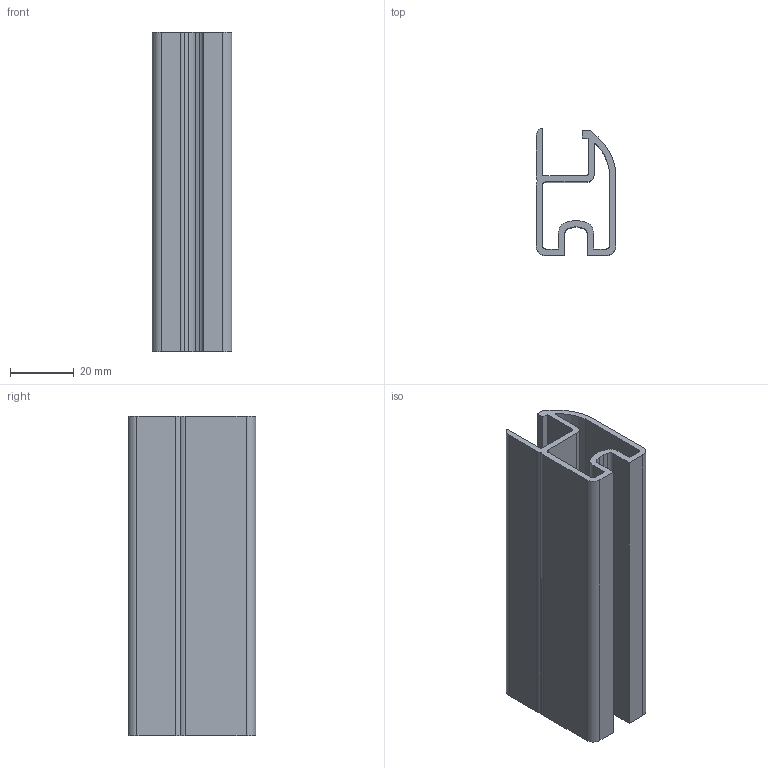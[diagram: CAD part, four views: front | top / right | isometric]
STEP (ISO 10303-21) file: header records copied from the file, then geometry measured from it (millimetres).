
FILE_DESCRIPTION (( 'STEP AP203' ), '1' );
FILE_NAME ('013.025.013.STEP', '2020-07-22T09:08:26', ( '' ), ( '' ), 'SwSTEP 2.0', 'SolidWorks 2018', '' );
FILE_SCHEMA (( 'CONFIG_CONTROL_DESIGN' ));
Length unit declared in the file: millimetre
Products named in the file (1): 013.025.013
Bounding box: 25 x 39.89 x 100 mm (x, y, z)
Volume: 28546.3 mm3; surface area: 29078.2 mm2
Topology: 1 solids, 1 shells, 51 faces, 147 edges, 98 vertices
Faces by surface type: plane 27, cylinder 23, bspline 1
Entity records: 1774 total; most frequent: CARTESIAN_POINT 310, ORIENTED_EDGE 294, DIRECTION 293, EDGE_CURVE 147, VECTOR 99, LINE 99, VERTEX_POINT 98, AXIS2_PLACEMENT_3D 97
